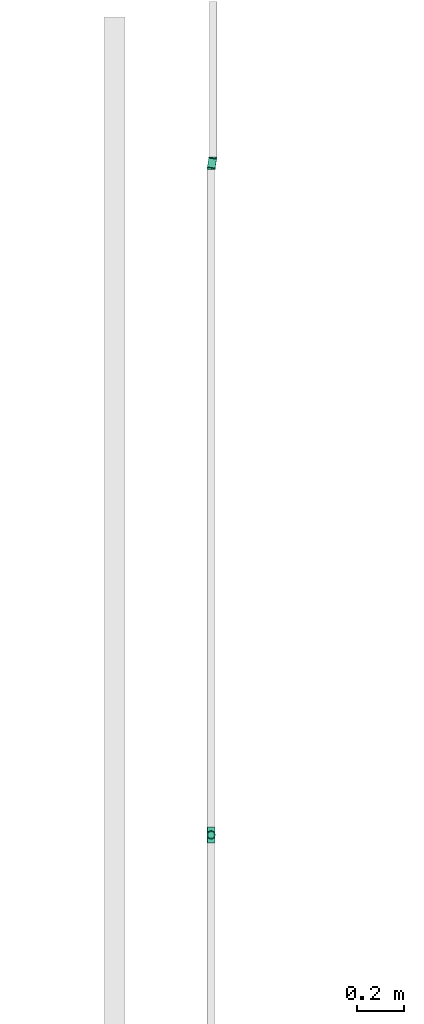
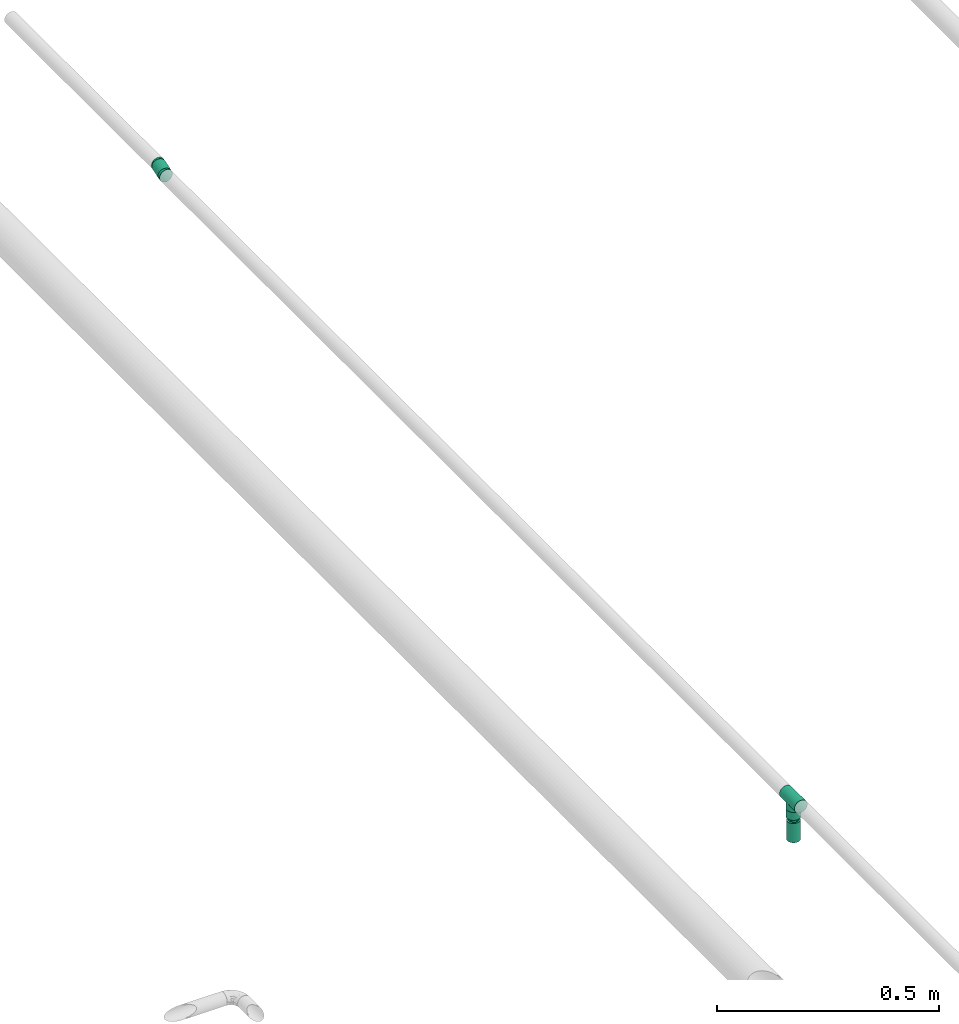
# One storey, part 12 of 32: 4 flow fittings, 2 flow segments, 1 flow terminal.
"""IFC2X3 building model written with IfcOpenShell, lengths in millimetres."""

from ifc_helpers import new_model, entity, si_unit, converted_unit, derived_unit, direction, frame, origin_with_axes, origin_2d_with_axis, place, context, subcontext, project, spatial, hollow_circle, extrude, open_shell, surface_model, source, transform, mapped, type_object, element, save


model = new_model("IFC2X3")

# Units and contexts
model_context = context("Model", 3, precision=0.01, world=frame((0.0, 4.29681676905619e-09, 0.0)), true_north=direction((4.01073788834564e-13, 1.0)))
plan_context = context("Plan", 3, precision=0.01, world=frame((0.0, 4.29681676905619e-09, 0.0)), true_north=direction((4.01073788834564e-13, 1.0)))
body_context = subcontext(model_context, "Body", "Model", "MODEL_VIEW")
ifc_project = project(units=[converted_unit("PLANEANGLEUNIT", "DEGREE", entity("IfcPositiveLengthMeasure", 0.0174532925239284), si_unit("PLANEANGLEUNIT", "RADIAN"), dimensions=[0, 0, 0, 0, 0, 0, 0]), si_unit("AREAUNIT", "SQUARE_METRE"), si_unit("LENGTHUNIT", "METRE", prefix="MILLI"), si_unit("MASSUNIT", "GRAM", prefix="KILO"), si_unit("POWERUNIT", "WATT"), si_unit("PRESSUREUNIT", "PASCAL", prefix="KILO"), si_unit("FORCEUNIT", "NEWTON", prefix="KILO"), si_unit("ELECTRICVOLTAGEUNIT", "VOLT"), si_unit("ELECTRICCURRENTUNIT", "AMPERE"), si_unit("THERMODYNAMICTEMPERATUREUNIT", "DEGREE_CELSIUS"), si_unit("TIMEUNIT", "SECOND"), si_unit("VOLUMEUNIT", "CUBIC_METRE"), derived_unit("LINEARVELOCITYUNIT", [(si_unit("LENGTHUNIT", "METRE"), 1), (si_unit("TIMEUNIT", "SECOND"), -1)]), derived_unit("VOLUMETRICFLOWRATEUNIT", [(si_unit("VOLUMEUNIT", "CUBIC_METRE"), 1), (si_unit("TIMEUNIT", "SECOND"), -1)]), derived_unit("THERMALTRANSMITTANCEUNIT", [(si_unit("POWERUNIT", "WATT"), 1), (si_unit("THERMODYNAMICTEMPERATUREUNIT", "KELVIN"), -1), (si_unit("AREAUNIT", "SQUARE_METRE"), -1)]), derived_unit("SOUNDPRESSUREUNIT", [(si_unit("PRESSUREUNIT", "PASCAL"), 1)])], contexts=[model_context, plan_context])

# Site, building, storey
site_placement = place(None, frame((0.0, -4.29681676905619e-09, 0.0), z_axis=(0.0, 0.0, 1.0), x_axis=(1.0, 0.0, 0.0)))
site = spatial("IfcSite", under=ifc_project, at=site_placement, CompositionType="ELEMENT")
building_placement = place(site_placement, frame((0.0, 4.29681676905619e-09, 0.0), z_axis=(0.0, 0.0, 1.0), x_axis=(1.0, 0.0, 0.0)))
building = spatial("IfcBuilding", under=site, at=building_placement, Name="mc-building", CompositionType="ELEMENT")
storey_placement = place(building_placement, frame((0.0, 0.0, 205200.0), z_axis=(0.0, 0.0, 1.0), x_axis=(1.0, 0.0, 0.0)))
storey = spatial("IfcBuildingStorey", under=building, at=storey_placement, Name="Nivå D + 1,2 m", CompositionType="ELEMENT", Elevation=205200.0)

# Flow fittings
pipe_fitting_type_1 = type_object("IfcPipeFittingType", Name="magi_pipe_fe_tee_centric_90_001", PredefinedType="JUNCTION")
shared_shape_1 = source(origin_with_axes(), body_context, "Body", "SurfaceModel", [
    surface_model("IfcShellBasedSurfaceModel", [(-33.8, 4.37404, -16.32415), (-33.8, 0.0, -16.9), (-33.8, 16.32415, -4.37404), (-33.8, 8.45, -14.63583), (-33.8, 11.9501, -11.9501), (-33.8, 14.63583, -8.45), (-33.8, -16.9, 0.0), (-33.8, -11.9501, -11.9501), (-33.8, -14.63583, -8.45), (-33.8, -8.45, -14.63583), (-33.8, -4.37404, -16.32415), (-33.8, -16.32415, -4.37404), (-33.8, 14.63583, 8.45), (-33.8, 16.32415, 4.37404), (-33.8, -8.45, 14.63583), (-33.8, 8.45, 14.63583), (-33.8, 11.9501, 11.9501), (-33.8, 4.37404, 16.32415), (-33.8, 0.0, 16.9), (-33.8, -11.9501, 11.9501), (-33.8, -14.63583, 8.45), (-33.8, -16.32415, 4.37404), (-33.8, -4.37404, 16.32415), (-33.8, 16.9, 0.0), (33.8, 4.37404, -16.32415), (33.8, -16.9, 0.0), (33.8, 0.0, -16.9), (33.8, 14.63583, -8.45), (33.8, 8.45, -14.63583), (33.8, 16.32415, -4.37404), (33.8, 11.9501, -11.9501), (33.8, -16.32415, 4.37404), (33.8, -8.45, -14.63583), (33.8, -4.37404, -16.32415), (33.8, -11.9501, -11.9501), (33.8, -14.63583, -8.45), (33.8, -16.32415, -4.37404), (33.8, 16.32415, 4.37404), (33.8, 8.45, 14.63583), (33.8, 14.63583, 8.45), (33.8, 11.9501, 11.9501), (33.8, -8.45, 14.63583), (33.8, 4.37404, 16.32415), (33.8, -14.63583, 8.45), (33.8, -11.9501, 11.9501), (33.8, 0.0, 16.9), (33.8, -4.37404, 16.32415), (33.8, 16.9, 0.0), (16.28698, -16.28698, 4.51047), (16.9, -16.9, 0.0), (14.62704, -14.62704, 8.4652), (9.47213, -9.47213, 13.99602), (12.26343, -12.26343, 11.62834), (-16.9, -16.9, 0.0), (-16.28698, -16.28698, 4.51047), (-14.62704, -14.62704, 8.4652), (-12.26343, -12.26343, 11.62834), (-9.47213, -9.47213, 13.99602), (-6.42894, -6.42894, 15.62942), (6.42894, -6.42894, 15.62942), (3.24522, -3.24522, 16.58549), (0.0, 0.0, 16.9), (-3.24522, -3.24522, 16.58549), (3.24522, -3.24522, -16.58549), (0.0, 0.0, -16.9), (-3.24522, -3.24522, -16.58549), (-6.42894, -6.42894, -15.62942), (6.42894, -6.42894, -15.62942), (9.47213, -9.47213, -13.99602), (12.26343, -12.26343, -11.62834), (14.62704, -14.62704, -8.4652), (16.28698, -16.28698, -4.51047), (-9.47213, -9.47213, -13.99602), (-12.26343, -12.26343, -11.62834), (-16.28698, -16.28698, -4.51047), (-14.62704, -14.62704, -8.4652), (4.37404, -25.35, -16.32415), (-16.9, -25.35, 0.0), (0.0, -25.35, -16.9), (14.63583, -25.35, -8.45), (8.45, -25.35, -14.63583), (16.32415, -25.35, -4.37404), (11.9501, -25.35, -11.9501), (-11.9501, -25.35, -11.9501), (-8.45, -25.35, -14.63583), (-4.37404, -25.35, -16.32415), (-14.63583, -25.35, -8.45), (-16.32415, -25.35, -4.37404), (16.9, -25.35, 0.0), (8.45, -25.35, 14.63583), (16.32415, -25.35, 4.37404), (14.63583, -25.35, 8.45), (-8.45, -25.35, 14.63583), (11.9501, -25.35, 11.9501), (4.37404, -25.35, 16.32415), (-16.32415, -25.35, 4.37404), (-11.9501, -25.35, 11.9501), (-14.63583, -25.35, 8.45), (0.0, -25.35, 16.9), (-4.37404, -25.35, 16.32415)], [open_shell([[[0, 1, 2]], [[3, 0, 4]], [[0, 2, 5]], [[4, 0, 5]], [[6, 2, 1]], [[7, 8, 9]], [[1, 10, 9]], [[11, 6, 8]], [[1, 9, 8]], [[1, 8, 6]], [[6, 12, 2]], [[12, 13, 2]], [[14, 12, 6]], [[12, 14, 15]], [[16, 12, 15]], [[17, 15, 18]], [[19, 14, 20]], [[21, 20, 14]], [[22, 18, 14]], [[14, 6, 21]], [[14, 18, 15]], [[23, 2, 13]], [[24, 25, 26]], [[27, 24, 28]], [[27, 29, 24]], [[27, 28, 30]], [[31, 25, 24]], [[26, 32, 33]], [[26, 34, 32]], [[35, 25, 36]], [[35, 34, 26]], [[25, 35, 26]], [[24, 29, 31]], [[29, 37, 38]], [[38, 37, 39]], [[38, 31, 29]], [[38, 39, 40]], [[41, 38, 42]], [[43, 41, 44]], [[41, 43, 31]], [[41, 45, 46]], [[41, 31, 38]], [[42, 45, 41]], [[29, 47, 37]], [[31, 43, 48]], [[25, 31, 49]], [[49, 31, 48]], [[43, 50, 48]], [[44, 41, 51]], [[50, 43, 52]], [[51, 52, 44]], [[52, 43, 44]], [[53, 54, 21]], [[53, 21, 6]], [[21, 54, 20]], [[54, 55, 20]], [[56, 57, 19]], [[19, 20, 56]], [[19, 57, 14]], [[56, 20, 55]], [[14, 57, 58]], [[51, 41, 59]], [[60, 45, 61]], [[59, 46, 60]], [[46, 59, 41]], [[60, 46, 45]], [[61, 45, 42]], [[39, 37, 13]], [[16, 38, 40]], [[12, 40, 39]], [[42, 38, 15]], [[23, 37, 47]], [[62, 61, 18]], [[62, 22, 58]], [[22, 62, 18]], [[58, 22, 14]], [[61, 17, 18]], [[42, 17, 61]], [[15, 17, 42]], [[15, 38, 16]], [[12, 16, 40]], [[13, 12, 39]], [[37, 23, 13]], [[5, 27, 30]], [[23, 47, 29]], [[30, 28, 3]], [[27, 2, 29]], [[26, 33, 63]], [[26, 64, 24]], [[64, 26, 63]], [[28, 24, 0]], [[64, 0, 24]], [[4, 30, 3]], [[2, 27, 5]], [[5, 30, 4]], [[2, 23, 29]], [[65, 66, 10]], [[1, 0, 64]], [[1, 65, 10]], [[66, 9, 10]], [[0, 3, 28]], [[1, 64, 65]], [[63, 33, 67]], [[32, 34, 68]], [[69, 68, 34]], [[35, 70, 69]], [[69, 34, 35]], [[32, 68, 67]], [[36, 25, 49]], [[36, 71, 35]], [[71, 36, 49]], [[35, 71, 70]], [[72, 9, 66]], [[72, 7, 9]], [[7, 72, 73]], [[7, 73, 8]], [[74, 53, 11]], [[75, 74, 8]], [[74, 11, 8]], [[11, 53, 6]], [[75, 8, 73]], [[32, 67, 33]], [[76, 77, 78]], [[79, 76, 80]], [[79, 81, 76]], [[79, 80, 82]], [[77, 76, 81]], [[78, 83, 84]], [[84, 85, 78]], [[86, 77, 87]], [[83, 78, 86]], [[77, 86, 78]], [[81, 88, 77]], [[89, 88, 90]], [[89, 90, 91]], [[92, 77, 89]], [[89, 91, 93]], [[92, 89, 94]], [[95, 96, 97]], [[96, 95, 92]], [[92, 98, 99]], [[95, 77, 92]], [[94, 98, 92]], [[89, 77, 88]], [[77, 95, 53]], [[54, 53, 95]], [[97, 96, 56]], [[96, 92, 57]], [[95, 97, 54]], [[58, 92, 99]], [[55, 54, 97]], [[56, 55, 97]], [[58, 57, 92]], [[98, 61, 62]], [[58, 99, 62]], [[56, 96, 57]], [[62, 99, 98]], [[94, 60, 98]], [[89, 59, 94]], [[91, 90, 48]], [[52, 93, 91]], [[93, 51, 89]], [[49, 90, 88]], [[59, 60, 94]], [[51, 59, 89]], [[49, 48, 90]], [[50, 52, 91]], [[48, 50, 91]], [[51, 93, 52]], [[98, 60, 61]], [[88, 81, 49]], [[71, 49, 81]], [[79, 82, 69]], [[82, 80, 68]], [[81, 79, 71]], [[67, 80, 76]], [[70, 71, 79]], [[69, 70, 79]], [[67, 68, 80]], [[78, 64, 63]], [[67, 76, 63]], [[69, 82, 68]], [[63, 76, 78]], [[85, 65, 78]], [[84, 66, 85]], [[86, 87, 74]], [[86, 73, 83]], [[72, 84, 83]], [[53, 87, 77]], [[66, 65, 85]], [[72, 66, 84]], [[53, 74, 87]], [[75, 73, 86]], [[74, 75, 86]], [[72, 83, 73]], [[78, 65, 64]]])]),
])
flow_fitting_1_placement = place(storey_placement, frame((329697.5, 464022.26745, 4419.99012999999), z_axis=(-1.0, 0.0, 0.0), x_axis=(0.0, -1.0, 0.0)))
element("IfcFlowFitting", 1, at=flow_fitting_1_placement, inside=storey, type_object=pipe_fitting_type_1, Name="magi_pipe_fe_tee_centric_90_001", context=body_context, shape_type="MappedRepresentation", body=[
    mapped(shared_shape_1, transform((0.0, 0.0, 0.0), scale=1.0)),
])
pipe_fitting_type_2 = type_object("IfcPipeFittingType", Name="magi_pipe_fe_reducer_centric_short_001", PredefinedType="TRANSITION")
shared_shape_2 = source(origin_with_axes(), body_context, "Body", "SurfaceModel", [
    surface_model("IfcShellBasedSurfaceModel", [(-2.0, 11.9501, 11.9501), (-2.0, 0.0, 16.9), (-2.0, 4.37404, 16.32415), (-2.0, 8.45, 14.63583), (-2.0, 14.63583, 8.45), (-2.0, 16.32415, 4.37404), (-2.0, -16.32415, 4.37404), (-2.0, -8.45, 14.63583), (-2.0, -14.63583, 8.45), (-2.0, -11.9501, 11.9501), (-2.0, -4.37404, 16.32415), (-2.0, -16.32415, -4.37404), (-2.0, -16.9, 0.0), (-2.0, -8.45, -14.63583), (-2.0, 16.32415, -4.37404), (-2.0, 11.9501, -11.9501), (-2.0, 14.63583, -8.45), (-2.0, 8.45, -14.63583), (-2.0, 4.37404, -16.32415), (-2.0, 0.0, -16.9), (-2.0, -11.9501, -11.9501), (-2.0, -14.63583, -8.45), (-2.0, -4.37404, -16.32415), (-2.0, 16.9, 0.0), (0.0, 4.37404, -16.32415), (0.0, 8.45, -14.63583), (0.0, 11.9501, -11.9501), (0.0, 0.0, -16.9), (0.0, 16.32415, -4.37404), (0.0, 16.32415, 4.37404), (0.0, 14.63583, -8.45), (0.0, -8.45, -14.63583), (0.0, -4.37404, -16.32415), (0.0, -11.9501, -11.9501), (0.0, -16.32415, -4.37404), (0.0, -14.63583, -8.45), (0.0, -16.32415, 4.37404), (0.0, 16.9, 0.0), (0.0, 14.63583, 8.45), (0.0, 11.9501, 11.9501), (0.0, 4.37404, 16.32415), (0.0, 8.45, 14.63583), (0.0, 0.0, 16.9), (0.0, -14.63583, 8.45), (0.0, -16.9, 0.0), (0.0, -8.45, 14.63583), (0.0, -11.9501, 11.9501), (0.0, -4.37404, 16.32415), (14.4, 5.35, -9.26647), (14.4, 0.0, -10.7), (14.4, 2.76936, -10.33541), (14.4, 10.33541, -2.76936), (14.4, 7.56604, -7.56604), (14.4, -5.35, -9.26647), (14.4, 9.26647, -5.35), (14.4, -9.26647, 5.35), (14.4, -2.76936, -10.33541), (14.4, -7.56604, -7.56604), (14.4, -10.33541, -2.76936), (14.4, -9.26647, -5.35), (14.4, 10.33541, 2.76936), (14.4, 10.7, 0.0), (14.4, 9.26647, 5.35), (14.4, 7.56604, 7.56604), (14.4, 2.76936, 10.33541), (14.4, 0.0, 10.7), (14.4, 5.35, 9.26647), (14.4, -10.33541, 2.76936), (14.4, -10.7, 0.0), (14.4, -7.56604, 7.56604), (14.4, -2.76936, 10.33541), (14.4, -5.35, 9.26647), (12.4, 0.0, 10.7), (12.4, 2.76936, 10.33541), (12.4, 5.35, 9.26647), (12.4, 7.56604, 7.56604), (12.4, 9.26647, 5.35), (12.4, 10.33541, 2.76936), (12.4, -10.33541, 2.76936), (12.4, 10.33541, -2.76936), (12.4, -2.76936, 10.33541), (12.4, -7.56604, 7.56604), (12.4, -5.35, 9.26647), (12.4, -9.26647, 5.35), (12.4, -10.33541, -2.76936), (12.4, -10.7, 0.0), (12.4, 2.76936, -10.33541), (12.4, 9.26647, -5.35), (12.4, 7.56604, -7.56604), (12.4, 5.35, -9.26647), (12.4, -7.56604, -7.56604), (12.4, -9.26647, -5.35), (12.4, -5.35, -9.26647), (12.4, 0.0, -10.7), (12.4, -2.76936, -10.33541), (12.4, 10.7, 0.0), (12.4, 9.3625, -2.31662), (0.0, 14.42505, -5.97505), (0.0, 15.66253, -2.98753), (12.4, -6.6875, -6.94985), (0.0, -13.18758, -8.96258), (0.0, 2.98753, -15.66253), (12.4, 0.0, -9.26647), (12.4, 6.6875, -6.94985), (0.0, 8.96258, -13.18758), (12.4, -9.3625, -2.31662), (0.0, -15.66253, -2.98753), (0.0, -14.42505, -5.97505), (0.0, 5.97505, -14.42505), (0.0, -2.98753, -15.66253), (0.0, -8.96258, -13.18758), (0.0, 13.18758, -8.96258), (12.4, 8.025, -4.63324), (12.4, -2.675, -9.26647), (12.4, 2.675, -9.26647), (0.0, -5.97505, -14.42505), (12.4, -8.025, -4.63324), (12.4, -9.3625, 2.31662), (0.0, -14.42505, 5.97505), (0.0, -15.66253, 2.98753), (12.4, 6.6875, 6.94985), (0.0, 13.18758, 8.96258), (0.0, -2.98753, 15.66253), (12.4, 0.0, 9.26647), (12.4, -6.6875, 6.94985), (0.0, -8.96258, 13.18758), (12.4, 9.3625, 2.31662), (0.0, 15.66253, 2.98753), (0.0, 14.42505, 5.97505), (0.0, -5.97505, 14.42505), (0.0, 2.98753, 15.66253), (0.0, 8.96258, 13.18758), (0.0, -13.18758, 8.96258), (12.4, -8.025, 4.63324), (12.4, 2.675, 9.26647), (12.4, -2.675, 9.26647), (0.0, 5.97505, 14.42505), (12.4, 8.025, 4.63324)], [open_shell([[[0, 1, 2]], [[0, 2, 3]], [[0, 4, 5]], [[0, 5, 1]], [[1, 5, 6]], [[7, 8, 9]], [[7, 10, 1]], [[8, 7, 1]], [[1, 6, 8]], [[6, 11, 12]], [[6, 5, 13]], [[5, 14, 15]], [[15, 14, 16]], [[15, 17, 18]], [[13, 5, 15]], [[19, 15, 18]], [[11, 20, 21]], [[20, 11, 13]], [[13, 19, 22]], [[11, 6, 13]], [[15, 19, 13]], [[5, 23, 14]], [[24, 25, 26]], [[27, 24, 26]], [[26, 28, 29]], [[28, 26, 30]], [[26, 29, 31]], [[27, 31, 32]], [[27, 26, 31]], [[33, 34, 35]], [[34, 33, 31]], [[31, 36, 34]], [[29, 28, 37]], [[29, 38, 39]], [[29, 39, 40]], [[40, 36, 31]], [[40, 39, 41]], [[36, 40, 42]], [[42, 43, 36]], [[44, 34, 36]], [[43, 45, 46]], [[43, 42, 45]], [[45, 42, 47]], [[31, 29, 40]], [[11, 34, 12]], [[21, 35, 11]], [[31, 20, 13]], [[21, 20, 33]], [[32, 13, 22]], [[11, 35, 34]], [[34, 44, 12]], [[32, 31, 13]], [[33, 20, 31]], [[33, 35, 21]], [[27, 32, 22]], [[22, 19, 27]], [[18, 24, 19]], [[17, 25, 18]], [[30, 15, 16]], [[17, 15, 26]], [[28, 16, 14]], [[17, 26, 25]], [[25, 24, 18]], [[37, 28, 14]], [[30, 16, 28]], [[30, 26, 15]], [[23, 37, 14]], [[19, 24, 27]], [[5, 29, 23]], [[4, 38, 5]], [[41, 0, 3]], [[4, 0, 39]], [[40, 3, 2]], [[5, 38, 29]], [[29, 37, 23]], [[40, 41, 3]], [[39, 0, 41]], [[39, 38, 4]], [[42, 40, 2]], [[2, 1, 42]], [[10, 47, 1]], [[7, 45, 10]], [[43, 9, 8]], [[7, 9, 46]], [[36, 8, 6]], [[7, 46, 45]], [[45, 47, 10]], [[44, 36, 6]], [[43, 8, 36]], [[43, 46, 9]], [[12, 44, 6]], [[1, 47, 42]], [[33, 44, 27]], [[48, 49, 50]], [[51, 48, 52]], [[53, 48, 51]], [[51, 52, 54]], [[55, 53, 51]], [[49, 53, 56]], [[49, 48, 53]], [[57, 58, 59]], [[58, 57, 53]], [[53, 55, 58]], [[60, 51, 61]], [[60, 62, 63]], [[51, 63, 55]], [[64, 65, 63]], [[64, 63, 66]], [[55, 63, 65]], [[58, 67, 68]], [[55, 67, 58]], [[69, 70, 71]], [[70, 69, 55]], [[65, 70, 55]], [[51, 60, 63]], [[72, 73, 74]], [[72, 74, 75]], [[75, 76, 77]], [[72, 75, 78]], [[79, 78, 75]], [[80, 81, 82]], [[81, 80, 78]], [[81, 78, 83]], [[80, 72, 78]], [[78, 84, 85]], [[79, 75, 77]], [[84, 78, 79]], [[86, 79, 87]], [[88, 89, 86]], [[88, 86, 87]], [[84, 79, 86]], [[84, 90, 91]], [[90, 84, 92]], [[92, 93, 94]], [[92, 84, 86]], [[86, 93, 92]], [[79, 77, 95]], [[84, 58, 85]], [[91, 59, 84]], [[53, 90, 92]], [[91, 90, 57]], [[56, 92, 94]], [[84, 59, 58]], [[58, 68, 85]], [[56, 53, 92]], [[57, 90, 53]], [[57, 59, 91]], [[49, 56, 94]], [[94, 93, 49]], [[86, 50, 93]], [[89, 48, 86]], [[54, 88, 87]], [[89, 88, 52]], [[51, 87, 79]], [[89, 52, 48]], [[48, 50, 86]], [[61, 51, 79]], [[54, 87, 51]], [[54, 52, 88]], [[95, 61, 79]], [[93, 50, 49]], [[77, 60, 95]], [[76, 62, 77]], [[66, 75, 74]], [[76, 75, 63]], [[64, 74, 73]], [[77, 62, 60]], [[60, 61, 95]], [[64, 66, 74]], [[63, 75, 66]], [[63, 62, 76]], [[65, 64, 73]], [[73, 72, 65]], [[80, 70, 72]], [[82, 71, 80]], [[55, 81, 83]], [[82, 81, 69]], [[67, 83, 78]], [[82, 69, 71]], [[71, 70, 80]], [[68, 67, 78]], [[55, 83, 67]], [[55, 69, 81]], [[85, 68, 78]], [[72, 70, 65]], [[74, 82, 95]], [[95, 82, 92]], [[92, 89, 95]], [[92, 82, 85]], [[42, 39, 44]], [[44, 46, 42]], [[39, 26, 44]], [[27, 44, 26]], [[26, 39, 37]], [[96, 97, 98]], [[33, 99, 100]], [[101, 102, 27]], [[98, 37, 95]], [[26, 103, 104]], [[104, 103, 89]], [[105, 106, 107]], [[89, 108, 104]], [[102, 109, 27]], [[110, 99, 33]], [[95, 96, 98]], [[103, 111, 112]], [[109, 102, 113]], [[85, 44, 106]], [[102, 101, 114]], [[110, 115, 92]], [[96, 112, 97]], [[107, 116, 105]], [[85, 106, 105]], [[113, 115, 109]], [[92, 115, 113]], [[116, 107, 100]], [[108, 89, 114]], [[111, 103, 26]], [[111, 97, 112]], [[99, 110, 92]], [[116, 100, 99]], [[101, 108, 114]], [[117, 118, 119]], [[39, 120, 121]], [[122, 123, 42]], [[119, 44, 85]], [[46, 124, 125]], [[125, 124, 82]], [[126, 127, 128]], [[82, 129, 125]], [[123, 130, 42]], [[131, 120, 39]], [[85, 117, 119]], [[124, 132, 133]], [[130, 123, 134]], [[95, 37, 127]], [[123, 122, 135]], [[131, 136, 74]], [[117, 133, 118]], [[128, 137, 126]], [[95, 127, 126]], [[134, 136, 130]], [[74, 136, 134]], [[137, 128, 121]], [[129, 82, 135]], [[132, 124, 46]], [[132, 118, 133]], [[120, 131, 74]], [[137, 121, 120]], [[122, 129, 135]]])]),
])
flow_fitting_2_placement = place(storey_placement, frame((329697.5, 464022.26745, 4372.78346000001), z_axis=(1.0, 0.0, 0.0), x_axis=(0.0, 0.0, -1.0)))
element("IfcFlowFitting", 2, at=flow_fitting_2_placement, inside=storey, type_object=pipe_fitting_type_2, Name="magi_pipe_fe_reducer_centric_short_001", context=body_context, shape_type="MappedRepresentation", body=[
    mapped(shared_shape_2, transform((0.0, 0.0, 0.0), scale=1.0)),
])
pipe_fitting_type_3 = type_object("IfcPipeFittingType", Name="magi_pipe_fe_elbow_short_001", PredefinedType="BEND")
shared_shape_3 = source(origin_with_axes(), body_context, "Body", "SurfaceModel", [
    surface_model("IfcShellBasedSurfaceModel", [(-2.79903, 4.37404, -16.32415), (-2.79903, 0.0, -16.9), (-2.79903, 11.9501, -11.9501), (-2.79903, 8.45, -14.63583), (-2.79903, 16.32415, -4.37404), (-2.79903, 14.63583, -8.45), (-2.79903, -14.63583, -8.45), (-2.79903, -16.32415, -4.37404), (-2.79903, -8.45, 14.63583), (-2.79903, -11.9501, -11.9501), (-2.79903, -8.45, -14.63583), (-2.79903, -4.37404, -16.32415), (-2.79903, -16.9, 0.0), (-2.79903, -16.32415, 4.37404), (-2.79903, 11.9501, 11.9501), (-2.79903, 16.32415, 4.37404), (-2.79903, 14.63583, 8.45), (-2.79903, 4.37404, 16.32415), (-2.79903, 8.45, 14.63583), (-2.79903, -14.63583, 8.45), (-2.79903, -11.9501, 11.9501), (-2.79903, -4.37404, 16.32415), (-2.79903, 0.0, 16.9), (-2.79903, 16.9, 0.0), (0.79517, 12.24775, -11.9501), (2.7609, 0.46043, -16.9), (2.04139, 4.77488, -16.32415), (1.37092, 8.79532, -14.63583), (0.35338, 14.89689, -8.45), (0.07566, 16.5622, -4.37404), (5.16842, -13.97603, -8.45), (4.15088, -7.87447, -14.63583), (4.72663, -11.32689, -11.9501), (3.48041, -3.85403, -16.32415), (5.44614, -15.64135, -4.37404), (5.16842, -13.97603, 8.45), (5.54087, -16.20936, 0.0), (-0.01906, 17.13021, 0.0), (0.79517, 12.24775, 11.9501), (0.07566, 16.5622, 4.37404), (0.35338, 14.89689, 8.45), (1.37092, 8.79532, 14.63583), (2.04139, 4.77488, 16.32415), (4.15088, -7.87447, 14.63583), (2.7609, 0.46043, 16.9), (4.72663, -11.32689, 11.9501), (5.44614, -15.64135, 4.37404), (3.48041, -3.85403, 16.32415), (-1.40429, 16.95765, 0.0), (1.38519, -16.72704, 0.0)], [open_shell([[[0, 1, 2]], [[3, 0, 2]], [[4, 5, 2]], [[6, 2, 1]], [[2, 7, 8]], [[9, 6, 10]], [[1, 11, 10]], [[1, 10, 6]], [[6, 7, 2]], [[12, 13, 7]], [[4, 2, 14]], [[14, 15, 4]], [[16, 15, 14]], [[17, 18, 14]], [[2, 8, 14]], [[17, 14, 8]], [[19, 20, 13]], [[13, 20, 7]], [[21, 22, 8]], [[20, 8, 7]], [[8, 22, 17]], [[23, 4, 15]], [[24, 25, 26]], [[24, 26, 27]], [[24, 28, 29]], [[25, 24, 30]], [[30, 24, 29]], [[31, 30, 32]], [[30, 31, 33]], [[34, 35, 36]], [[30, 33, 25]], [[34, 30, 35]], [[30, 29, 37]], [[38, 37, 39]], [[38, 39, 40]], [[38, 41, 42]], [[43, 30, 38]], [[44, 38, 42]], [[35, 43, 45]], [[46, 36, 35]], [[43, 44, 47]], [[35, 30, 43]], [[44, 43, 38]], [[30, 37, 38]], [[45, 8, 20]], [[20, 19, 35]], [[44, 22, 21]], [[22, 44, 17]], [[21, 8, 43]], [[46, 19, 13]], [[16, 14, 40]], [[18, 38, 14]], [[48, 15, 39]], [[48, 23, 15]], [[39, 15, 16]], [[41, 18, 17]], [[13, 12, 49]], [[43, 47, 21]], [[8, 45, 43]], [[47, 44, 21]], [[19, 46, 35]], [[20, 35, 45]], [[46, 49, 36]], [[40, 39, 16]], [[37, 48, 39]], [[41, 17, 42]], [[18, 41, 38]], [[40, 14, 38]], [[42, 17, 44]], [[13, 49, 46]], [[11, 1, 25]], [[1, 0, 25]], [[28, 2, 5]], [[3, 2, 24]], [[3, 27, 0]], [[4, 29, 5]], [[49, 12, 7]], [[34, 49, 7]], [[32, 9, 10]], [[7, 6, 34]], [[9, 30, 6]], [[31, 10, 11]], [[4, 23, 48]], [[48, 37, 29]], [[29, 28, 5]], [[3, 24, 27]], [[0, 27, 26]], [[2, 28, 24]], [[26, 25, 0]], [[31, 11, 33]], [[32, 10, 31]], [[6, 30, 34]], [[34, 36, 49]], [[30, 9, 32]], [[25, 33, 11]], [[4, 48, 29]]])]),
])
for number, where, z_axis, x_axis, name in (
    (3, (329705.0, 466901.03146, 4419.99012999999), (0.0, 0.0, 1.0), (0.164494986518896, 0.986377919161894, 0.0), "magi_pipe_fe_elbow_short_001"),
    (4, (329697.5, 466856.05845, 4419.99012999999), (0.0, 0.0, 1.0), (-0.164494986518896, -0.986377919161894, 0.0), "magi_pipe_fe_elbow_short_001"),
):
    element("IfcFlowFitting", number, at=place(storey_placement, frame(where, z_axis=z_axis, x_axis=x_axis)), inside=storey, type_object=pipe_fitting_type_3, Name=name, context=body_context, shape_type="MappedRepresentation", body=[
        mapped(shared_shape_3, transform((0.0, 0.0, 0.0), scale=1.0)),
    ])

# Flow segments
pipe_segment_type = type_object("IfcPipeSegmentType", Name="Stålrør normaltykke", PredefinedType="RIGIDSEGMENT")
shared_shape_4 = source(origin_with_axes(), body_context, "Body", "SweptSolid", [
    extrude(hollow_circle(Radius=16.9, WallThickness=2.0, at=origin_2d_with_axis()), frame((0.0, 0.0, 0.0), z_axis=(1.0, 0.0, 0.0), x_axis=(0.0, 1.0, 0.0)), (0.0, 0.0, 1.0), 21.9),
])
flow_segment_1_placement = place(storey_placement, frame((329697.5, 464022.26745, 4394.64013000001), z_axis=(-1.0, 0.0, 0.0), x_axis=(0.0, 0.0, -1.0)))
element("IfcFlowSegment", 5, at=flow_segment_1_placement, inside=storey, type_object=pipe_segment_type, Name="Stålrør normaltykke", context=body_context, shape_type="MappedRepresentation", body=[
    mapped(shared_shape_4, transform((0.0, 0.0, 0.0), scale=1.0)),
])
shared_shape_5 = source(origin_with_axes(), body_context, "Body", "SweptSolid", [
    extrude(hollow_circle(Radius=16.9, WallThickness=2.0, at=origin_2d_with_axis()), frame((0.0, 0.0, 0.0), z_axis=(1.0, 0.0, 0.0), x_axis=(0.0, 1.0, 0.0)), (0.0, 0.0, 1.0), 40.0),
])
flow_segment_2_placement = place(storey_placement, frame((329704.53957, 466898.27056, 4419.99012999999), z_axis=(0.0, 0.0, 1.0), x_axis=(-0.164494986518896, -0.986377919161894, 0.0)))
element("IfcFlowSegment", 6, at=flow_segment_2_placement, inside=storey, type_object=pipe_segment_type, Name="Stålrør normaltykke", context=body_context, shape_type="MappedRepresentation", body=[
    mapped(shared_shape_5, transform((0.0, 0.0, 0.0), scale=1.0)),
])

# Flow terminal
fire_suppression_terminal_type = type_object("IfcFireSuppressionTerminalType", Name="SP-15-K80-68DGR-STD-NEDOVER", PredefinedType="NOTDEFINED")
shared_shape_6 = source(origin_with_axes(), body_context, "Body", "SurfaceModel", [
    surface_model("IfcShellBasedSurfaceModel", [(4.1411, -15.45481, 53.0), (8.0, -13.85641, 53.0), (11.31371, -11.31371, 53.0), (-8.0, -13.85641, 53.0), (15.45481, -4.1411, 53.0), (16.0, 0.0, 53.0), (13.85641, -8.0, 53.0), (0.0, -16.0, 53.0), (-4.1411, -15.45481, 53.0), (-13.85641, -8.0, 53.0), (-11.31371, -11.31371, 53.0), (-15.45481, -4.1411, 53.0), (15.45481, 4.1411, 53.0), (13.85641, 8.0, 53.0), (11.31371, 11.31371, 53.0), (-4.1411, 15.45481, 53.0), (8.0, 13.85641, 53.0), (4.1411, 15.45481, 53.0), (0.0, 16.0, 53.0), (-13.85641, 8.0, 53.0), (-15.45481, 4.1411, 53.0), (-16.0, 0.0, 53.0), (-11.31371, 11.31371, 53.0), (-8.0, 13.85641, 53.0), (0.0, 16.0, 0.0), (4.1411, 15.45481, 0.0), (8.0, 13.85641, 0.0), (-4.1411, 15.45481, 0.0), (11.31371, 11.31371, 0.0), (13.85641, 8.0, 0.0), (15.45481, 4.1411, 0.0), (-15.45481, -4.1411, 0.0), (-11.31371, 11.31371, 0.0), (-8.0, 13.85641, 0.0), (-13.85641, 8.0, 0.0), (-15.45481, 4.1411, 0.0), (-16.0, 0.0, 0.0), (4.1411, -15.45481, 0.0), (16.0, 0.0, 0.0), (15.45481, -4.1411, 0.0), (13.85641, -8.0, 0.0), (11.31371, -11.31371, 0.0), (8.0, -13.85641, 0.0), (-8.0, -13.85641, 0.0), (-13.85641, -8.0, 0.0), (-11.31371, -11.31371, 0.0), (0.0, -16.0, 0.0), (-4.1411, -15.45481, 0.0)], [open_shell([[[0, 1, 2]], [[3, 0, 2]], [[4, 5, 2]], [[4, 2, 6]], [[3, 2, 5]], [[7, 3, 8]], [[7, 0, 3]], [[3, 9, 10]], [[9, 3, 11]], [[5, 11, 3]], [[5, 12, 11]], [[12, 13, 14]], [[15, 12, 14]], [[16, 17, 18]], [[14, 16, 15]], [[18, 15, 16]], [[11, 19, 20]], [[21, 11, 20]], [[22, 15, 23]], [[15, 22, 19]], [[19, 11, 15]], [[11, 12, 15]], [[24, 25, 26]], [[27, 24, 26]], [[28, 29, 30]], [[27, 26, 28]], [[27, 28, 31]], [[27, 32, 33]], [[32, 27, 34]], [[34, 31, 35]], [[31, 34, 27]], [[35, 31, 36]], [[28, 30, 31]], [[37, 38, 39]], [[37, 39, 40]], [[41, 42, 37]], [[41, 37, 40]], [[38, 37, 43]], [[44, 43, 45]], [[43, 44, 31]], [[43, 46, 47]], [[43, 31, 38]], [[37, 46, 43]], [[38, 31, 30]], [[11, 31, 44]], [[45, 9, 44]], [[3, 43, 47]], [[45, 43, 10]], [[8, 47, 46]], [[31, 21, 36]], [[31, 11, 21]], [[44, 9, 11]], [[45, 10, 9]], [[3, 10, 43]], [[47, 8, 3]], [[46, 7, 8]], [[0, 37, 42]], [[41, 1, 42]], [[6, 40, 39]], [[41, 40, 2]], [[4, 39, 38]], [[37, 0, 7]], [[42, 1, 0]], [[41, 2, 1]], [[40, 6, 2]], [[4, 6, 39]], [[38, 5, 4]], [[37, 7, 46]], [[12, 38, 30]], [[13, 30, 29]], [[16, 26, 25]], [[17, 25, 24]], [[30, 13, 12]], [[12, 5, 38]], [[28, 14, 13]], [[28, 26, 14]], [[14, 26, 16]], [[25, 17, 16]], [[28, 13, 29]], [[24, 18, 17]], [[15, 27, 33]], [[32, 23, 33]], [[19, 34, 35]], [[32, 34, 22]], [[20, 35, 36]], [[27, 15, 18]], [[33, 23, 15]], [[32, 22, 23]], [[34, 19, 22]], [[20, 19, 35]], [[36, 21, 20]], [[27, 18, 24]]])]),
])
flow_terminal_placement = place(storey_placement, frame((329697.5, 464022.26745, 4363.43145999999), z_axis=(0.0, 0.0, -1.0), x_axis=(1.0, 0.0, 0.0)))
element("IfcFlowTerminal", 7, at=flow_terminal_placement, inside=storey, type_object=fire_suppression_terminal_type, Name="SP-15-K80-68DGR-STD-NEDOVER", context=body_context, shape_type="MappedRepresentation", body=[
    mapped(shared_shape_6, transform((0.0, 0.0, 0.0), scale=1.0)),
])

save(model, "model.ifc")
